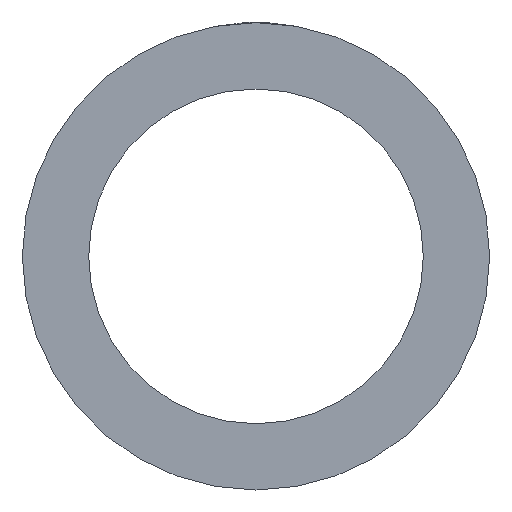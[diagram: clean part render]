
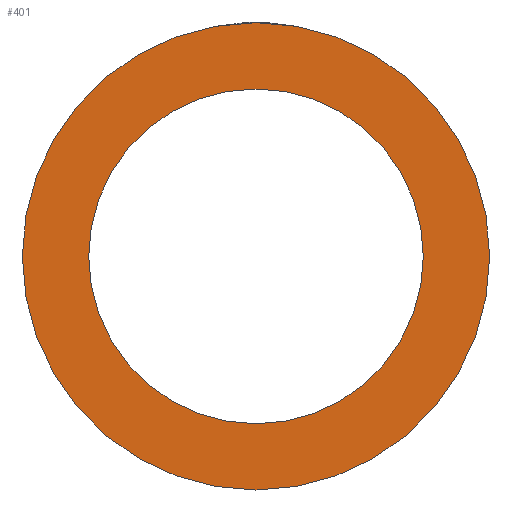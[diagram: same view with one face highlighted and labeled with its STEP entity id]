
A CAD part, left-side view. The second image highlights one B-rep face of the part: STEP entity #401.
In plain terms, the highlighted planar face has unit normal (-1, 0, 0).
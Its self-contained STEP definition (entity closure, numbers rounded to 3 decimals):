
#31 = DIRECTION ( 'NONE',  ( 0., 0., 1. ) ) ;
#50 = DIRECTION ( 'NONE',  ( -1., 0., 0. ) ) ;
#68 = CARTESIAN_POINT ( 'NONE',  ( 0., 0., 0. ) ) ;
#91 = VERTEX_POINT ( 'NONE', #2036 ) ;
#123 = AXIS2_PLACEMENT_3D ( 'NONE', #2829, #2560, #2576 ) ;
#184 = ORIENTED_EDGE ( 'NONE', *, *, #505, .F. ) ;
#396 = EDGE_CURVE ( 'NONE', #2577, #91, #2809, .T. ) ;
#401 = ADVANCED_FACE ( 'NONE', ( #2759, #2755 ), #1043, .F. ) ;
#505 = EDGE_CURVE ( 'NONE', #1332, #812, #2280, .T. ) ;
#591 = CIRCLE ( 'NONE', #3086, 114.6 ) ;
#724 = EDGE_CURVE ( 'NONE', #812, #1332, #591, .T. ) ;
#755 = DIRECTION ( 'NONE',  ( 0., 0., -1. ) ) ;
#766 = DIRECTION ( 'NONE',  ( 1., 0., 0. ) ) ;
#776 = CARTESIAN_POINT ( 'NONE',  ( 0., 114.6, 0. ) ) ;
#812 = VERTEX_POINT ( 'NONE', #829 ) ;
#829 = CARTESIAN_POINT ( 'NONE',  ( 0., 0., 114.6 ) ) ;
#946 = CARTESIAN_POINT ( 'NONE',  ( 0., 0., -160. ) ) ;
#1043 = PLANE ( 'NONE',  #1706 ) ;
#1184 = ORIENTED_EDGE ( 'NONE', *, *, #1995, .T. ) ;
#1187 = ORIENTED_EDGE ( 'NONE', *, *, #396, .T. ) ;
#1263 = CARTESIAN_POINT ( 'NONE',  ( 0., 0., -114.6 ) ) ;
#1332 = VERTEX_POINT ( 'NONE', #1263 ) ;
#1394 = DIRECTION ( 'NONE',  ( 0., 0., 1. ) ) ;
#1548 = DIRECTION ( 'NONE',  ( 0., 0., 1. ) ) ;
#1557 = DIRECTION ( 'NONE',  ( -1., 0., 0. ) ) ;
#1587 = DIRECTION ( 'NONE',  ( -1., 0., 0. ) ) ;
#1611 = CIRCLE ( 'NONE', #2374, 160. ) ;
#1630 = CARTESIAN_POINT ( 'NONE',  ( 0., 0., 0. ) ) ;
#1651 = CARTESIAN_POINT ( 'NONE',  ( 0., 0., 0. ) ) ;
#1706 = AXIS2_PLACEMENT_3D ( 'NONE', #776, #766, #755 ) ;
#1871 = EDGE_LOOP ( 'NONE', ( #1184, #1187 ) ) ;
#1995 = EDGE_CURVE ( 'NONE', #91, #2577, #1611, .T. ) ;
#2036 = CARTESIAN_POINT ( 'NONE',  ( 0., 0., 160. ) ) ;
#2280 = CIRCLE ( 'NONE', #123, 114.6 ) ;
#2307 = AXIS2_PLACEMENT_3D ( 'NONE', #1630, #1557, #1394 ) ;
#2374 = AXIS2_PLACEMENT_3D ( 'NONE', #68, #50, #31 ) ;
#2560 = DIRECTION ( 'NONE',  ( -1., 0., 0. ) ) ;
#2576 = DIRECTION ( 'NONE',  ( 0., 0., 1. ) ) ;
#2577 = VERTEX_POINT ( 'NONE', #946 ) ;
#2625 = ORIENTED_EDGE ( 'NONE', *, *, #724, .F. ) ;
#2755 = FACE_OUTER_BOUND ( 'NONE', #1871, .T. ) ;
#2759 = FACE_BOUND ( 'NONE', #2797, .T. ) ;
#2797 = EDGE_LOOP ( 'NONE', ( #2625, #184 ) ) ;
#2809 = CIRCLE ( 'NONE', #2307, 160. ) ;
#2829 = CARTESIAN_POINT ( 'NONE',  ( 0., 0., 0. ) ) ;
#3086 = AXIS2_PLACEMENT_3D ( 'NONE', #1651, #1587, #1548 ) ;
